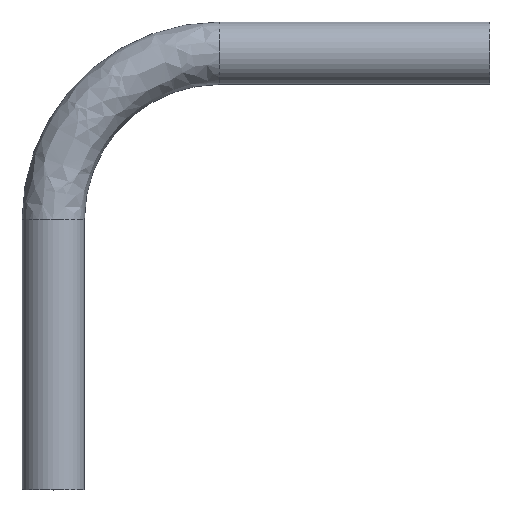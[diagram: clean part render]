
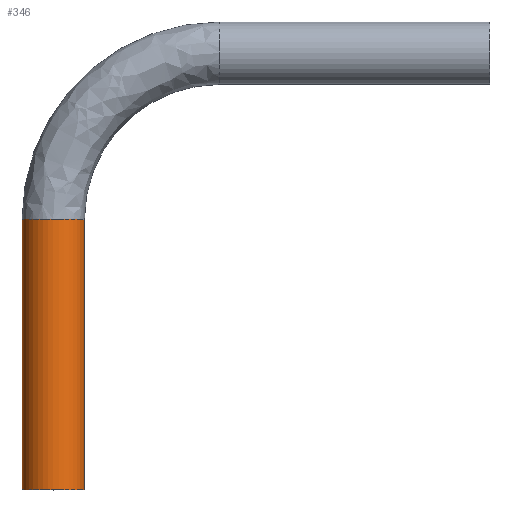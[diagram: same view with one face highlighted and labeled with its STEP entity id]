
A CAD part, top view. The second image highlights one B-rep face of the part: STEP entity #346.
In plain terms, the highlighted cylindrical face has radius 4.765 mm (diameter 9.53 mm), a partial arc.
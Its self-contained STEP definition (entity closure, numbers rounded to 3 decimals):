
#4 = CIRCLE ( 'NONE', #199, 4.765 ) ;
#10 = CIRCLE ( 'NONE', #427, 4.765 ) ;
#31 = CYLINDRICAL_SURFACE ( 'NONE', #84, 4.765 ) ;
#41 = EDGE_CURVE ( 'NONE', #359, #350, #10, .T. ) ;
#63 = DIRECTION ( 'NONE',  ( 1., 0., 0. ) ) ;
#66 = DIRECTION ( 'NONE',  ( 0., -1., 0. ) ) ;
#68 = CARTESIAN_POINT ( 'NONE',  ( 0., 41.3, 0. ) ) ;
#74 = CARTESIAN_POINT ( 'NONE',  ( -4.765, 0., 0. ) ) ;
#79 = CARTESIAN_POINT ( 'NONE',  ( 0., 0., 0. ) ) ;
#84 = AXIS2_PLACEMENT_3D ( 'NONE', #168, #287, #466 ) ;
#97 = ORIENTED_EDGE ( 'NONE', *, *, #211, .F. ) ;
#114 = CARTESIAN_POINT ( 'NONE',  ( -4.765, 41.3, 0. ) ) ;
#125 = EDGE_CURVE ( 'NONE', #236, #389, #4, .T. ) ;
#152 = CARTESIAN_POINT ( 'NONE',  ( 4.765, 41.3, 0. ) ) ;
#168 = CARTESIAN_POINT ( 'NONE',  ( 0., 41.3, 0. ) ) ;
#178 = CARTESIAN_POINT ( 'NONE',  ( 4.765, 41.3, 0. ) ) ;
#181 = EDGE_LOOP ( 'NONE', ( #376, #448, #313, #97 ) ) ;
#199 = AXIS2_PLACEMENT_3D ( 'NONE', #68, #66, #63 ) ;
#211 = EDGE_CURVE ( 'NONE', #236, #350, #428, .T. ) ;
#236 = VERTEX_POINT ( 'NONE', #152 ) ;
#250 = CARTESIAN_POINT ( 'NONE',  ( 4.765, 0., 0. ) ) ;
#252 = DIRECTION ( 'NONE',  ( 0., -1., 0. ) ) ;
#265 = CARTESIAN_POINT ( 'NONE',  ( -4.765, 41.3, 0. ) ) ;
#287 = DIRECTION ( 'NONE',  ( 0., -1., 0. ) ) ;
#297 = DIRECTION ( 'NONE',  ( 1., 0., 0. ) ) ;
#301 = LINE ( 'NONE', #265, #322 ) ;
#307 = FACE_OUTER_BOUND ( 'NONE', #181, .T. ) ;
#313 = ORIENTED_EDGE ( 'NONE', *, *, #41, .T. ) ;
#316 = DIRECTION ( 'NONE',  ( 0., -1., 0. ) ) ;
#322 = VECTOR ( 'NONE', #252, 1000. ) ;
#346 = ADVANCED_FACE ( 'NONE', ( #307 ), #31, .T. ) ;
#350 = VERTEX_POINT ( 'NONE', #250 ) ;
#356 = DIRECTION ( 'NONE',  ( 0., 1., 0. ) ) ;
#359 = VERTEX_POINT ( 'NONE', #74 ) ;
#376 = ORIENTED_EDGE ( 'NONE', *, *, #125, .T. ) ;
#389 = VERTEX_POINT ( 'NONE', #114 ) ;
#390 = VECTOR ( 'NONE', #316, 1000. ) ;
#427 = AXIS2_PLACEMENT_3D ( 'NONE', #79, #356, #297 ) ;
#428 = LINE ( 'NONE', #178, #390 ) ;
#448 = ORIENTED_EDGE ( 'NONE', *, *, #456, .T. ) ;
#456 = EDGE_CURVE ( 'NONE', #389, #359, #301, .T. ) ;
#466 = DIRECTION ( 'NONE',  ( 1., 0., 0. ) ) ;
